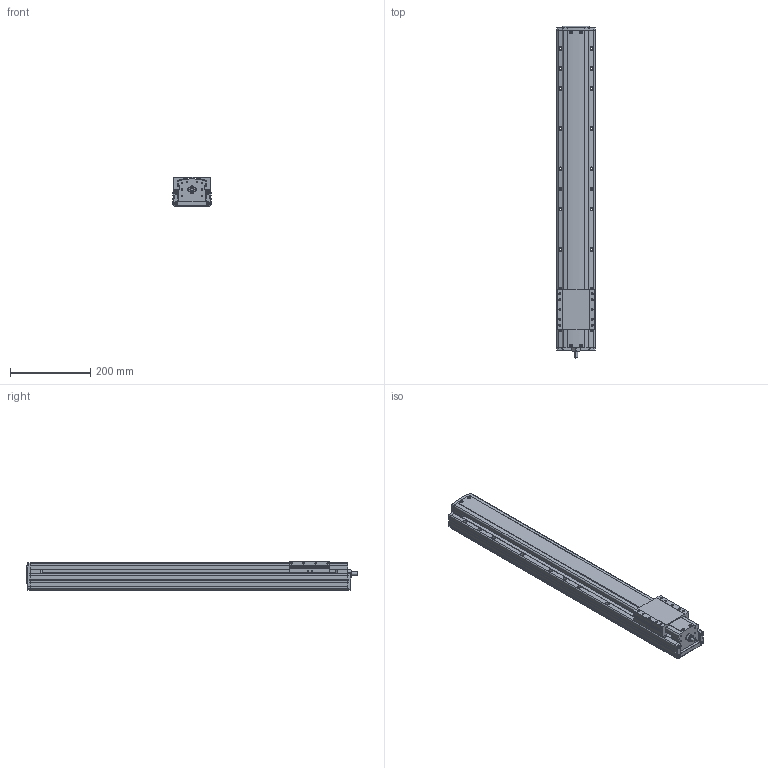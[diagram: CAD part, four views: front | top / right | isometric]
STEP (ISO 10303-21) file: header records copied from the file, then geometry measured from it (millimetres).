
FILE_DESCRIPTION(('STEP AP214'),'1');
FILE_NAME('Z:/Web/3D/PSA95/STP/PSA95-600 (3D)/PSA95ㅁㅁ-600.stp','2014-07-03T00:34:34',(' '),(' '),'Spatial InterOp 3D',' ',' ');
FILE_SCHEMA(('automotive_design'));
Length unit declared in the file: millimetre
Products named in the file (18): BASE; RRCV; 스크루 : Round - M4.0 x 10.0; 너트 : Square - M10.0 x 220.7419; RR1500; FRCV-090; 스크루 : Round - M4.0 x 6.0; SLBL-PA90
Bounding box: 95 x 826 x 74 mm (x, y, z)
Volume: 4326027.1 mm3; surface area: 435864.7 mm2
Topology: 18 solids, 18 shells, 1827 faces, 4942 edges, 3150 vertices
Faces by surface type: plane 1011, cylinder 567, cone 181, sphere 30, bspline 24, torus 14
Entity records: 74039 total; most frequent: CARTESIAN_POINT 12972, ORIENTED_EDGE 9636, DIRECTION 9622, EDGE_CURVE 4818, LINE 3314, VECTOR 3314, AXIS2_PLACEMENT_3D 3154, VERTEX_POINT 3150
